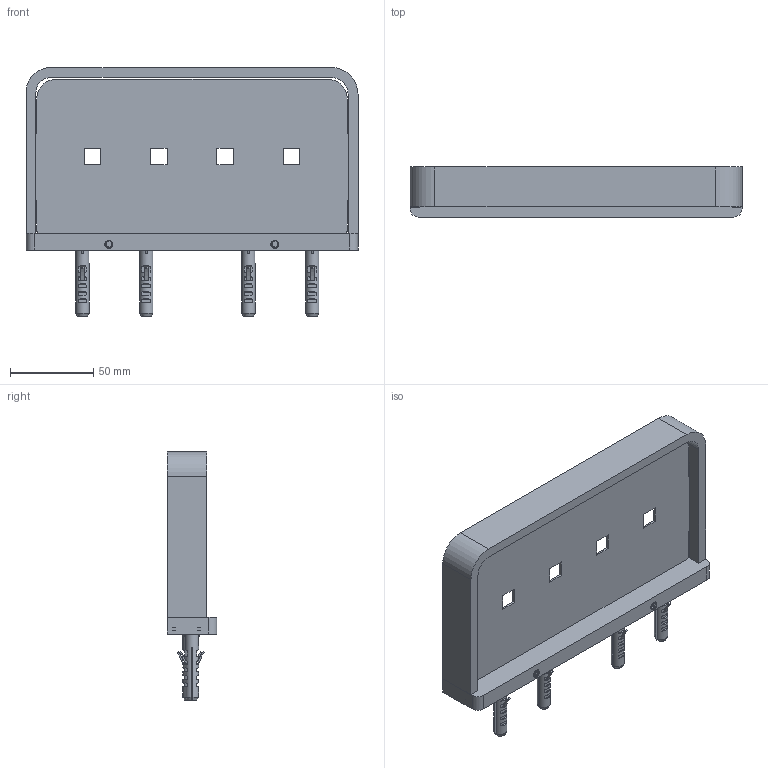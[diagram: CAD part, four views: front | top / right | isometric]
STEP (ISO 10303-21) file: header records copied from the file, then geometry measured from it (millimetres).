
FILE_DESCRIPTION(/* description */ (''),/* implementation_level */ '2;1');
FILE_NAME(/* name */ 'c:\worker\convert-fusion-r08\tmp\job-1\20\output\files\012779cd-4da2-43b4-8754-e77e957c0fd4\81d5ce1b-40d9-4055-80df-e146b686e00c.zip.stp',/* time_stamp */ '2019-11-26T10:55:07+00:00',/* author */ (''),/* organization */ (''),/* preprocessor_version */ 'ST-DEVELOPER v18',/* originating_system */ 'Autodesk Translation Framework v8.12.0.6',/* authorisation */ '');
FILE_SCHEMA (('AUTOMOTIVE_DESIGN { 1 0 10303 214 3 1 1 }'));
Products named in the file (1): !LU30330
Bounding box: 200 x 30 x 150 mm (x, y, z)
Volume: 113399 mm3; surface area: 98694.6 mm2
Topology: 19 solids, 19 shells, 943 faces, 2504 edges, 1640 vertices
Faces by surface type: plane 463, cylinder 272, bspline 162, cone 38, torus 8
Full cylindrical faces by diameter (mm): 3.3 x4, 3.8 x124, 4 x52, 4.2 x6, 4.8 x4, 5 x16, 5.126 x4, 7.5 x4, 8 x6
Entity records: 94749 total; most frequent: CARTESIAN_POINT 72820, ORIENTED_EDGE 4988, DIRECTION 3714, EDGE_CURVE 2494, VERTEX_POINT 1640, LINE 1366, VECTOR 1366, AXIS2_PLACEMENT_3D 1174
